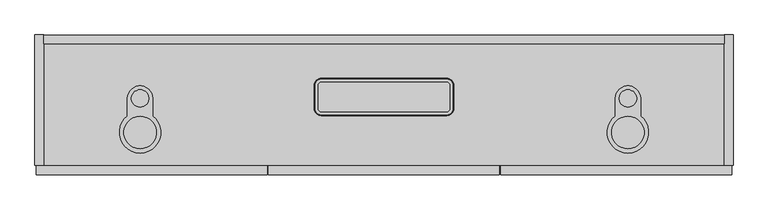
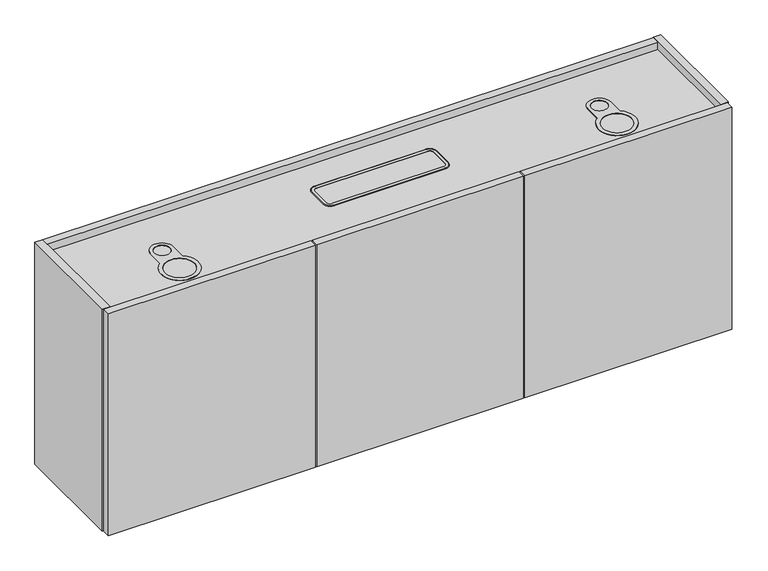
"""IFC4 building model written with IfcOpenShell, lengths in millimetres: furniture geometry, Geiger_GeigerOneCasegoods_UtilityCabinetForUseWithCredenzaDeskAccepts2Legs : Geiger_GeigerOneCasegoods_UtilityCabinetForUseWithCredenzaDeskAccepts2Legs."""

from ifc_helpers import new_model, si_unit, point, frame, origin, place, context, project, spatial, polyline, circle_curve, ellipse_curve, trimmed, outline, extrude, faceted_brep, source, transform, mapped, element, save
from ifc_brep_helpers import plane_surface, cylinder_surface, revolved_surface, advanced_brep


def furniture_ee5a0780(model_context):
    return source(origin(), model_context, "Body", "SolidModel", [
        faceted_brep([(1505.0, -19.5, 584.2), (1505.0, -19.5, 29.0), (1505.0, -0.5, 29.0), (1505.0, -0.5, 584.2), (1505.0, -284.3, 156.0), (1505.0, -284.3, 29.0), (1505.0, -265.3, 29.0), (1505.0, -265.3, 156.0), (19.0, -19.5, 584.2), (19.0, -0.5, 584.2), (19.0, -0.5, 29.0), (19.0, -19.5, 29.0), (19.0, -284.3, 156.0), (19.0, -265.3, 156.0), (19.0, -265.3, 29.0), (19.0, -284.3, 29.0), (371.75, -19.5, 29.0), (371.75, -19.5, 546.2), (390.75, -19.5, 546.2), (390.75, -19.5, 29.0), (390.75, -284.3, 156.0), (390.75, -284.3, 29.0), (371.75, -284.3, 29.0), (371.75, -284.3, 156.0), (390.75, -265.3, 29.0), (371.75, -265.3, 29.0), (390.75, -265.3, 156.0), (371.75, -265.3, 156.0), (371.75, -284.8, 12.7), (371.75, -284.8, 546.2), (371.75, -19.5, 12.7), (390.75, -284.8, 12.7), (390.75, -19.5, 12.7), (390.75, -284.8, 546.2)], [[[0, 1, 2, 3]], [[4, 5, 6, 7]], [[8, 9, 10, 11]], [[12, 13, 14, 15]], [[1, 0, 8, 11, 16, 17, 18, 19]], [[2, 1, 19, 16, 11, 10]], [[3, 2, 10, 9]], [[0, 3, 9, 8]], [[5, 4, 20, 21]], [[12, 15, 22, 23]], [[6, 5, 21, 24]], [[15, 14, 25, 22]], [[7, 6, 24, 26]], [[14, 13, 27, 25]], [[4, 7, 26, 20]], [[13, 12, 23, 27]], [[28, 29, 17, 16, 30], [23, 22, 25, 27]], [[31, 32, 19, 18, 33], [21, 20, 26, 24]], [[29, 28, 31, 33]], [[17, 29, 33, 18]], [[32, 30, 16, 19]], [[28, 30, 32, 31]]]),
        extrude(outline(polyline([(1505.0, -19.5), (1505.0, -284.8), (19.0, -284.8), (19.0, -19.5), (1505.0, -19.5)])), frame((0.0, 0.0, 546.2), z_axis=(0.0, 0.0, 1.0), x_axis=(1.0, 0.0, 0.0)), (0.0, 0.0, 1.0), 19.0),
        extrude(outline(polyline([(506.8, -304.8), (3.0, -304.8), (3.0, -285.8), (506.8, -285.8), (506.8, -304.8)])), frame((0.0, 0.0, 12.7), z_axis=(0.0, 0.0, 1.0), x_axis=(1.0, 0.0, 0.0)), (0.0, 0.0, 1.0), 571.5),
        extrude(outline(polyline([(1521.0, -304.8), (1016.6, -304.8), (1016.6, -285.8), (1521.0, -285.8), (1521.0, -304.8)])), frame((0.0, 0.0, 12.7), z_axis=(0.0, 0.0, 1.0), x_axis=(1.0, 0.0, 0.0)), (0.0, 0.0, 1.0), 571.5),
        extrude(outline(polyline([(1013.6, -304.8), (509.8, -304.8), (509.8, -285.8), (1013.6, -285.8), (1013.6, -304.8)])), frame((0.0, 0.0, 12.7), z_axis=(0.0, 0.0, 1.0), x_axis=(1.0, 0.0, 0.0)), (0.0, 0.0, 1.0), 571.5),
        extrude(outline(polyline([(19.0, -284.8), (0.0, -284.8), (0.0, 0.0), (19.0, 0.0), (19.0, -284.8)])), frame((0.0, 0.0, 12.7), z_axis=(0.0, 0.0, 1.0), x_axis=(1.0, 0.0, 0.0)), (0.0, 0.0, 1.0), 571.5),
        extrude(outline(polyline([(1524.0, -284.8), (1505.0, -284.8), (1505.0, 0.0), (1524.0, 0.0), (1524.0, -284.8)])), frame((0.0, 0.0, 12.7), z_axis=(0.0, 0.0, 1.0), x_axis=(1.0, 0.0, 0.0)), (0.0, 0.0, 1.0), 571.5),
        advanced_brep(
        [(610.7203563, -110.825, 566.7), (625.9, -95.6453563, 566.7), (625.9, -94.4172964, 565.2), (609.4922964, -110.825, 565.2), (609.4922964, -160.025, 565.2), (610.7203563, -160.025, 566.7), (625.9, -176.4327036, 565.2), (625.9, -175.2046437, 566.7), (898.1, -176.4327036, 565.2), (898.1, -175.2046437, 566.7), (914.5077036, -160.025, 565.2), (913.2796437, -160.025, 566.7), (914.5077036, -110.825, 565.2), (913.2796437, -110.825, 566.7), (898.1, -94.4172964, 565.2), (898.1, -95.6453563, 566.7), (625.9, -102.925, 566.7), (898.1, -102.925, 566.7), (906.0, -110.825, 566.7), (906.0, -160.025, 566.7), (898.1, -167.925, 566.7), (625.9, -167.925, 566.7), (618.0, -160.025, 566.7), (618.0, -110.825, 566.7), (618.0, -110.825, 566.001635), (625.9, -102.925, 566.001635), (618.0, -160.025, 566.001635), (625.9, -167.925, 566.001635), (898.1, -167.925, 566.001635), (906.0, -160.025, 566.001635), (906.0, -110.825, 566.001635), (898.1, -102.925, 566.001635)],
        [
            (0, 1, circle_curve(frame((625.9, -110.825, 566.7), z_axis=(0.0, 0.0, -1.0), x_axis=(0.0, 1.0, 0.0)), 15.1796437)),
            (1, 2, circle_curve(frame((625.9, -95.6453563, 565.4472896), z_axis=(-1.0, 0.0, 0.0), x_axis=(0.0, -1.0, 0.0)), 1.2527104)),
            (2, 3, circle_curve(frame((625.9, -110.825, 565.2), z_axis=(0.0, 0.0, 1.0), x_axis=(0.0, 1.0, 0.0)), 16.4077036)),
            (3, 0, circle_curve(frame((610.7203563, -110.825, 565.4472896), z_axis=(0.0, 1.0, 0.0), x_axis=(1.0, 0.0, 0.0)), 1.2527104)),
            (3, 4),
            (4, 5, circle_curve(frame((610.7203563, -160.025, 565.4472896), z_axis=(0.0, 1.0, 0.0), x_axis=(1.0, 0.0, 0.0)), 1.2527104)),
            (5, 0),
            (4, 6, circle_curve(frame((625.9, -160.025, 565.2), z_axis=(0.0, 0.0, 1.0), x_axis=(-1.0, 0.0, 0.0)), 16.4077036)),
            (6, 7, circle_curve(frame((625.9, -175.2046437, 565.4472896), z_axis=(-1.0, 0.0, 0.0), x_axis=(0.0, 1.0, 0.0)), 1.2527104)),
            (7, 5, circle_curve(frame((625.9, -160.025, 566.7), z_axis=(0.0, 0.0, -1.0), x_axis=(-1.0, 0.0, 0.0)), 15.1796437)),
            (6, 8),
            (8, 9, circle_curve(frame((898.1, -175.2046437, 565.4472896), z_axis=(-1.0, 0.0, 0.0), x_axis=(0.0, 1.0, 0.0)), 1.2527104)),
            (9, 7),
            (8, 10, circle_curve(frame((898.1, -160.025, 565.2), z_axis=(0.0, 0.0, 1.0), x_axis=(0.0, -1.0, 0.0)), 16.4077036)),
            (10, 11, circle_curve(frame((913.2796437, -160.025, 565.4472896), z_axis=(0.0, -1.0, 0.0), x_axis=(-1.0, 0.0, 0.0)), 1.2527104)),
            (11, 9, circle_curve(frame((898.1, -160.025, 566.7), z_axis=(0.0, 0.0, -1.0), x_axis=(0.0, -1.0, 0.0)), 15.1796437)),
            (10, 12),
            (12, 13, circle_curve(frame((913.2796437, -110.825, 565.4472896), z_axis=(0.0, -1.0, 0.0), x_axis=(-1.0, 0.0, 0.0)), 1.2527104)),
            (13, 11),
            (12, 14, circle_curve(frame((898.1, -110.825, 565.2), z_axis=(0.0, 0.0, 1.0), x_axis=(1.0, 0.0, 0.0)), 16.4077036)),
            (14, 15, circle_curve(frame((898.1, -95.6453563, 565.4472896), z_axis=(1.0, 0.0, 0.0), x_axis=(0.0, -1.0, 0.0)), 1.2527104)),
            (15, 13, circle_curve(frame((898.1, -110.825, 566.7), z_axis=(0.0, 0.0, -1.0), x_axis=(1.0, 0.0, 0.0)), 15.1796437)),
            (1, 15),
            (14, 2),
            (16, 17),
            (17, 18, circle_curve(frame((898.1, -110.825, 566.7), z_axis=(0.0, 0.0, -1.0), x_axis=(1.0, 0.0, 0.0)), 7.9)),
            (18, 19),
            (19, 20, circle_curve(frame((898.1, -160.025, 566.7), z_axis=(0.0, 0.0, -1.0), x_axis=(0.0, -1.0, 0.0)), 7.9)),
            (20, 21),
            (21, 22, circle_curve(frame((625.9, -160.025, 566.7), z_axis=(0.0, 0.0, -1.0), x_axis=(-1.0, 0.0, 0.0)), 7.9)),
            (22, 23),
            (23, 16, circle_curve(frame((625.9, -110.825, 566.7), z_axis=(0.0, 0.0, -1.0), x_axis=(0.0, 1.0, 0.0)), 7.9)),
            (23, 24),
            (24, 25, circle_curve(frame((625.9, -110.825, 566.001635), z_axis=(0.0, 0.0, -1.0), x_axis=(0.0, 1.0, 0.0)), 7.9)),
            (25, 16),
            (22, 26),
            (26, 24),
            (21, 27),
            (27, 26, circle_curve(frame((625.9, -160.025, 566.001635), z_axis=(0.0, 0.0, -1.0), x_axis=(-1.0, 0.0, 0.0)), 7.9)),
            (20, 28),
            (28, 27),
            (19, 29),
            (29, 28, circle_curve(frame((898.1, -160.025, 566.001635), z_axis=(0.0, 0.0, -1.0), x_axis=(0.0, -1.0, 0.0)), 7.9)),
            (18, 30),
            (30, 29),
            (17, 31),
            (31, 30, circle_curve(frame((898.1, -110.825, 566.001635), z_axis=(0.0, 0.0, -1.0), x_axis=(1.0, 0.0, 0.0)), 7.9)),
            (25, 31),
        ],
        [
            revolved_surface(trimmed(ellipse_curve(frame((625.9, -95.6453563, 565.4472896), z_axis=(1.0, 0.0, 0.0), x_axis=(0.0, -1.0, 0.0)), 1.2527104, 1.2527104), [point((625.9, -94.4172964, 565.2))], [point((625.9, -95.6453563, 566.7))], True, "CARTESIAN"), (625.9, -110.825, 565.2), (0.0, 0.0, 1.0)),
            cylinder_surface(frame((610.7203563, -110.825, 565.4472896), z_axis=(0.0, 1.0, 0.0), x_axis=(1.0, 0.0, 0.0)), 1.2527104),
            revolved_surface(trimmed(ellipse_curve(frame((610.7203563, -160.025, 565.4472896), z_axis=(0.0, 1.0, 0.0), x_axis=(1.0, 0.0, 0.0)), 1.2527104, 1.2527104), [point((609.4922964, -160.025, 565.2))], [point((610.7203563, -160.025, 566.7))], True, "CARTESIAN"), (625.9, -160.025, 565.2), (0.0, 0.0, 1.0)),
            cylinder_surface(frame((625.9, -175.2046437, 565.4472896), z_axis=(-1.0, 0.0, 0.0), x_axis=(0.0, 1.0, 0.0)), 1.2527104),
            revolved_surface(trimmed(ellipse_curve(frame((898.1, -175.2046437, 565.4472896), z_axis=(-1.0, 0.0, 0.0), x_axis=(0.0, 1.0, 0.0)), 1.2527104, 1.2527104), [point((898.1, -176.4327036, 565.2))], [point((898.1, -175.2046437, 566.7))], True, "CARTESIAN"), (898.1, -160.025, 565.2), (0.0, 0.0, 1.0)),
            cylinder_surface(frame((913.2796437, -160.025, 565.4472896), z_axis=(0.0, -1.0, 0.0), x_axis=(-1.0, 0.0, 0.0)), 1.2527104),
            revolved_surface(trimmed(ellipse_curve(frame((913.2796437, -110.825, 565.4472896), z_axis=(0.0, -1.0, 0.0), x_axis=(-1.0, 0.0, 0.0)), 1.2527104, 1.2527104), [point((914.5077036, -110.825, 565.2))], [point((913.2796437, -110.825, 566.7))], True, "CARTESIAN"), (898.1, -110.825, 565.2), (0.0, 0.0, 1.0)),
            cylinder_surface(frame((898.1, -95.6453563, 565.4472896), z_axis=(1.0, 0.0, 0.0), x_axis=(0.0, -1.0, 0.0)), 1.2527104),
            plane_surface(frame((898.1, -95.6453563, 566.7), z_axis=(0.0, 0.0, 1.0), x_axis=(-1.0, 0.0, 0.0))),
            revolved_surface(polyline([(625.9, -102.925, 566.7), (625.9, -102.925, 566.001635)]), (625.9, -110.825, 565.2), (0.0, 0.0, 1.0)),
            plane_surface(frame((618.0, -110.825, 566.7), z_axis=(1.0, 0.0, 0.0), x_axis=(0.0, -1.0, 0.0))),
            revolved_surface(polyline([(618.0, -160.025, 566.7), (618.0, -160.025, 566.001635)]), (625.9, -160.025, 565.2), (0.0, 0.0, 1.0)),
            plane_surface(frame((625.9, -167.925, 566.7), z_axis=(0.0, 1.0, 0.0), x_axis=(1.0, 0.0, 0.0))),
            revolved_surface(polyline([(898.1, -167.925, 566.7), (898.1, -167.925, 566.001635)]), (898.1, -160.025, 565.2), (0.0, 0.0, 1.0)),
            plane_surface(frame((906.0, -160.025, 566.7), z_axis=(-1.0, 0.0, 0.0), x_axis=(0.0, 1.0, 0.0))),
            revolved_surface(polyline([(906.0, -110.825, 566.7), (906.0, -110.825, 566.001635)]), (898.1, -110.825, 565.2), (0.0, 0.0, 1.0)),
            plane_surface(frame((898.1, -102.925, 566.7), z_axis=(0.0, -1.0, 0.0), x_axis=(-1.0, 0.0, 0.0))),
            plane_surface(frame((898.1, -102.925, 565.2), z_axis=(0.0, 0.0, -1.0), x_axis=(-1.0, 0.0, 0.0))),
            plane_surface(frame((625.9, -102.925, 566.001635), z_axis=(0.0, 0.0, 1.0), x_axis=(-1.0, 0.0, 0.0))),
        ],
        [
            (0, [[1, 2, 3, 4]]),
            (1, [[-4, 5, 6, 7]]),
            (2, [[-6, 8, 9, 10]]),
            (3, [[-9, 11, 12, 13]]),
            (4, [[-12, 14, 15, 16]]),
            (5, [[-15, 17, 18, 19]]),
            (6, [[-18, 20, 21, 22]]),
            (7, [[-2, 23, -21, 24]]),
            (8, [[-1, -7, -10, -13, -16, -19, -22, -23], [25, 26, 27, 28, 29, 30, 31, 32]]),
            (9, [[-32, 33, 34, 35]]),
            (10, [[-31, 36, 37, -33]]),
            (11, [[-30, 38, 39, -36]]),
            (12, [[-29, 40, 41, -38]]),
            (13, [[-28, 42, 43, -40]]),
            (14, [[-27, 44, 45, -42]]),
            (15, [[-26, 46, 47, -44]]),
            (16, [[-25, -35, 48, -46]]),
            (17, [[-3, -24, -20, -17, -14, -11, -8, -5]]),
            (18, [[-34, -37, -39, -41, -43, -45, -47, -48]]),
        ],
    ),
        advanced_brep(
        [(257.1, -177.1090661, 565.2), (202.1, -177.1090661, 565.2), (202.1, -138.6393843, 565.2), (257.1, -138.6393843, 565.2), (257.1, -177.1090661, 566.8), (257.1, -138.6393843, 566.8), (202.1, -138.6393843, 566.8), (202.1, -177.1090661, 566.8), (229.6, -157.5707393, 566.8), (229.6, -119.7080294, 566.8), (229.6, -248.2790899, 566.8), (229.6, -177.4196387, 566.8), (229.6, -157.5707393, 566.001635), (229.6, -119.7080294, 566.001635), (229.6, -248.2790899, 566.001635), (229.6, -177.4196387, 566.001635)],
        [
            (0, 1, circle_curve(frame((229.6, -212.8493643, 565.2), z_axis=(0.0, 0.0, -1.0), x_axis=(0.0, 1.0, 0.0)), 45.095664)),
            (1, 2),
            (2, 3, circle_curve(frame((229.6, -138.6393843, 565.2), z_axis=(0.0, 0.0, -1.0), x_axis=(0.0, 1.0, 0.0)), 27.5)),
            (3, 0),
            (4, 5),
            (5, 6, circle_curve(frame((229.6, -138.6393843, 566.8), z_axis=(0.0, 0.0, 1.0), x_axis=(0.0, 1.0, 0.0)), 27.5)),
            (6, 7),
            (7, 4, circle_curve(frame((229.6, -212.8493643, 566.8), z_axis=(0.0, 0.0, 1.0), x_axis=(0.0, 1.0, 0.0)), 45.095664)),
            (8, 9, circle_curve(frame((229.6, -138.6393843, 566.8), z_axis=(0.0, 0.0, -1.0), x_axis=(0.0, 1.0, 0.0)), 18.931355)),
            (9, 8, circle_curve(frame((229.6, -138.6393843, 566.8), z_axis=(0.0, 0.0, -1.0), x_axis=(0.0, 1.0, 0.0)), 18.931355)),
            (10, 11, circle_curve(frame((229.6, -212.8493643, 566.8), z_axis=(0.0, 0.0, -1.0), x_axis=(0.0, 1.0, 0.0)), 35.4297256)),
            (11, 10, circle_curve(frame((229.6, -212.8493643, 566.8), z_axis=(0.0, 0.0, -1.0), x_axis=(0.0, 1.0, 0.0)), 35.4297256)),
            (3, 5),
            (4, 0),
            (2, 6),
            (1, 7),
            (8, 12),
            (12, 13, circle_curve(frame((229.6, -138.6393843, 566.001635), z_axis=(0.0, 0.0, -1.0), x_axis=(0.0, 1.0, 0.0)), 18.931355)),
            (13, 9),
            (13, 12, circle_curve(frame((229.6, -138.6393843, 566.001635), z_axis=(0.0, 0.0, -1.0), x_axis=(0.0, 1.0, 0.0)), 18.931355)),
            (10, 14),
            (14, 15, circle_curve(frame((229.6, -212.8493643, 566.001635), z_axis=(0.0, 0.0, -1.0), x_axis=(0.0, 1.0, 0.0)), 35.4297256)),
            (15, 11),
            (15, 14, circle_curve(frame((229.6, -212.8493643, 566.001635), z_axis=(0.0, 0.0, -1.0), x_axis=(0.0, 1.0, 0.0)), 35.4297256)),
        ],
        [
            plane_surface(frame((229.6, -265.3, 565.2), z_axis=(0.0, 0.0, -1.0), x_axis=(-1.0, 0.0, 0.0))),
            plane_surface(frame((229.6, -265.3, 566.8), z_axis=(0.0, 0.0, 1.0), x_axis=(-1.0, 0.0, 0.0))),
            plane_surface(frame((257.1, -138.6393843, 565.2), z_axis=(1.0, 0.0, 0.0), x_axis=(0.0, 0.0, 1.0))),
            cylinder_surface(frame((229.6, -138.6393843, 565.2), z_axis=(0.0, 0.0, -1.0), x_axis=(0.0, 1.0, 0.0)), 27.5),
            plane_surface(frame((202.1, -177.1090661, 565.2), z_axis=(-1.0, 0.0, 0.0), x_axis=(0.0, 0.0, 1.0))),
            cylinder_surface(frame((229.6, -212.8493643, 565.2), z_axis=(0.0, 0.0, -1.0), x_axis=(0.0, 1.0, 0.0)), 45.095664),
            revolved_surface(polyline([(229.6, -119.70802929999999, 566.8), (229.6, -119.70802929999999, 566.001635)]), (229.6, -138.6393843, 565.2), (0.0, 0.0, 1.0)),
            revolved_surface(polyline([(229.6, -177.4196387, 566.8), (229.6, -177.4196387, 566.001635)]), (229.6, -212.8493643, 565.2), (0.0, 0.0, 1.0)),
            plane_surface(frame((210.668645, -138.6393843, 566.001635), z_axis=(0.0, 0.0, 1.0), x_axis=(0.0, -1.0, 0.0))),
        ],
        [
            (0, [[1, 2, 3, 4]]),
            (1, [[5, 6, 7, 8], [9, 10], [11, 12]]),
            (2, [[-4, 13, -5, 14]]),
            (3, [[-3, 15, -6, -13]]),
            (4, [[-2, 16, -7, -15]]),
            (5, [[-1, -14, -8, -16]]),
            (6, [[-9, 17, 18, 19]]),
            (6, [[-10, -19, 20, -17]]),
            (7, [[-11, 21, 22, 23]]),
            (7, [[-12, -23, 24, -21]]),
            (8, [[-18, -20]]),
            (8, [[-22, -24]]),
        ],
    ),
        advanced_brep(
        [(1266.9, -177.1090661, 565.2), (1266.9, -138.6393843, 565.2), (1321.9, -138.6393843, 565.2), (1321.9, -177.1090661, 565.2), (1266.9, -177.1090661, 566.8), (1321.9, -177.1090661, 566.8), (1321.9, -138.6393843, 566.8), (1266.9, -138.6393843, 566.8), (1294.4, -119.7080294, 566.8), (1294.4, -157.5707393, 566.8), (1294.4, -177.4196387, 566.8), (1294.4, -248.2790899, 566.8), (1294.4, -157.5707393, 566.1909845), (1294.4, -119.7080294, 566.1909845), (1294.4, -248.2790899, 566.1909845), (1294.4, -177.4196387, 566.1909845)],
        [
            (0, 1),
            (1, 2, circle_curve(frame((1294.4, -138.6393843, 565.2), z_axis=(0.0, 0.0, -1.0), x_axis=(0.0, -1.0, 0.0)), 27.5)),
            (2, 3),
            (3, 0, circle_curve(frame((1294.4, -212.8493643, 565.2), z_axis=(0.0, 0.0, -1.0), x_axis=(0.0, -1.0, 0.0)), 45.095664)),
            (4, 5, circle_curve(frame((1294.4, -212.8493643, 566.8), z_axis=(0.0, 0.0, 1.0), x_axis=(0.0, -1.0, 0.0)), 45.095664)),
            (5, 6),
            (6, 7, circle_curve(frame((1294.4, -138.6393843, 566.8), z_axis=(0.0, 0.0, 1.0), x_axis=(0.0, -1.0, 0.0)), 27.5)),
            (7, 4),
            (8, 9, circle_curve(frame((1294.4, -138.6393843, 566.8), z_axis=(0.0, 0.0, -1.0), x_axis=(0.0, -1.0, 0.0)), 18.931355)),
            (9, 8, circle_curve(frame((1294.4, -138.6393843, 566.8), z_axis=(0.0, 0.0, -1.0), x_axis=(0.0, -1.0, 0.0)), 18.931355)),
            (10, 11, circle_curve(frame((1294.4, -212.8493643, 566.8), z_axis=(0.0, 0.0, -1.0), x_axis=(0.0, -1.0, 0.0)), 35.4297256)),
            (11, 10, circle_curve(frame((1294.4, -212.8493643, 566.8), z_axis=(0.0, 0.0, -1.0), x_axis=(0.0, -1.0, 0.0)), 35.4297256)),
            (0, 4),
            (7, 1),
            (6, 2),
            (5, 3),
            (9, 12),
            (12, 13, circle_curve(frame((1294.4, -138.6393843, 566.1909845), z_axis=(0.0, 0.0, -1.0), x_axis=(0.0, -1.0, 0.0)), 18.931355)),
            (13, 8),
            (13, 12, circle_curve(frame((1294.4, -138.6393843, 566.1909845), z_axis=(0.0, 0.0, -1.0), x_axis=(0.0, -1.0, 0.0)), 18.931355)),
            (11, 14),
            (14, 15, circle_curve(frame((1294.4, -212.8493643, 566.1909845), z_axis=(0.0, 0.0, -1.0), x_axis=(0.0, -1.0, 0.0)), 35.4297256)),
            (15, 10),
            (15, 14, circle_curve(frame((1294.4, -212.8493643, 566.1909845), z_axis=(0.0, 0.0, -1.0), x_axis=(0.0, -1.0, 0.0)), 35.4297256)),
        ],
        [
            plane_surface(frame((1294.4, -265.3, 565.2), z_axis=(0.0, 0.0, -1.0), x_axis=(1.0, 0.0, 0.0))),
            plane_surface(frame((1294.4, -265.3, 566.8), z_axis=(0.0, 0.0, 1.0), x_axis=(1.0, 0.0, 0.0))),
            plane_surface(frame((1266.9, -177.1090661, 565.2), z_axis=(-1.0, 0.0, 0.0), x_axis=(0.0, 0.0, 1.0))),
            cylinder_surface(frame((1294.4, -138.6393843, 565.2), z_axis=(0.0, 0.0, -1.0), x_axis=(0.0, -1.0, 0.0)), 27.5),
            plane_surface(frame((1321.9, -138.6393843, 565.2), z_axis=(1.0, 0.0, 0.0), x_axis=(0.0, 0.0, 1.0))),
            cylinder_surface(frame((1294.4, -212.8493643, 565.2), z_axis=(0.0, 0.0, -1.0), x_axis=(0.0, -1.0, 0.0)), 45.095664),
            revolved_surface(polyline([(1294.4, -157.57073929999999, 566.8), (1294.4, -157.57073929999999, 566.1909845)]), (1294.4, -138.6393843, 565.2), (0.0, 0.0, 1.0)),
            revolved_surface(polyline([(1294.4, -248.27908989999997, 566.8), (1294.4, -248.27908989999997, 566.1909845)]), (1294.4, -212.8493643, 565.2), (0.0, 0.0, 1.0)),
            plane_surface(frame((1275.468645, -138.6393843, 566.1909845), z_axis=(0.0, 0.0, 1.0), x_axis=(0.0, -1.0, 0.0))),
        ],
        [
            (0, [[1, 2, 3, 4]]),
            (1, [[5, 6, 7, 8], [9, 10], [11, 12]]),
            (2, [[-1, 13, -8, 14]]),
            (3, [[-2, -14, -7, 15]]),
            (4, [[-3, -15, -6, 16]]),
            (5, [[-4, -16, -5, -13]]),
            (6, [[-10, 17, 18, 19]]),
            (6, [[-9, -19, 20, -17]]),
            (7, [[-12, 21, 22, 23]]),
            (7, [[-11, -23, 24, -21]]),
            (8, [[-18, -20]]),
            (8, [[-22, -24]]),
        ],
    ),
    ])


if __name__ == "__main__":
    model = new_model("IFC4")
    model_context = context("Model", 3, world=origin())
    ifc_project = project(units=[si_unit("LENGTHUNIT", "METRE", prefix="MILLI")], contexts=[model_context])
    site = spatial("IfcSite", under=ifc_project)
    building = spatial("IfcBuilding", under=site)
    placement = place(None, origin())
    furniture_shape = furniture_ee5a0780(model_context)
    element("IfcFurniture", 1, ObjectType="Geiger_GeigerOneCasegoods_UtilityCabinetForUseWithCredenzaDeskAccepts2Legs : Geiger_GeigerOneCasegoods_UtilityCabinetForUseWithCredenzaDeskAccepts2Legs", at=placement, inside=building, context=model_context, shape_type="MappedRepresentation", body=[
        mapped(furniture_shape, transform((0.0, 0.0, 0.0), x_axis=(1.0, 0.0, 0.0), y_axis=(0.0, 1.0, 0.0), z_axis=(0.0, 0.0, 1.0))),
    ])
    save(model, "model.ifc")
